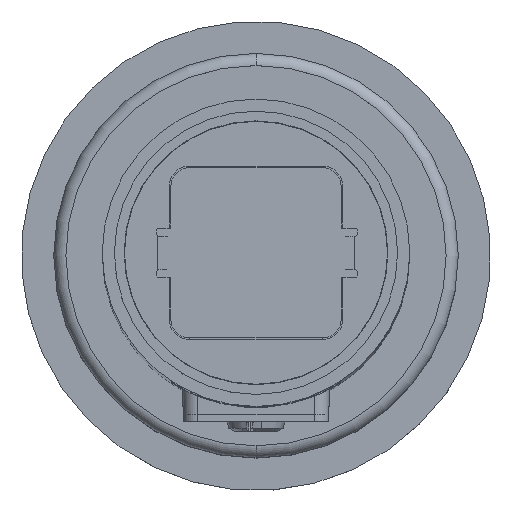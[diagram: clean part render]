
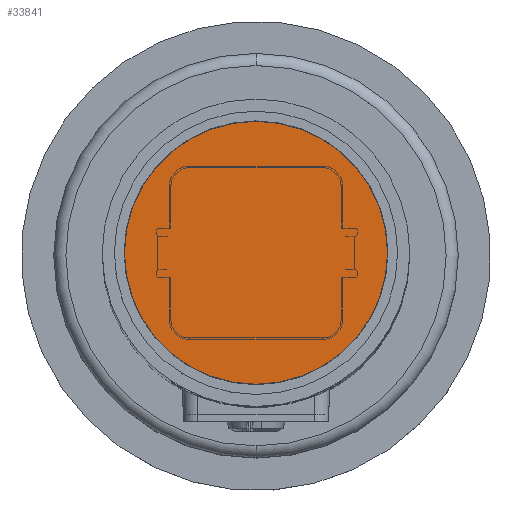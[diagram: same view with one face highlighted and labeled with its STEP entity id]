
A CAD part, top view. The second image highlights one B-rep face of the part: STEP entity #33841.
In plain terms, the highlighted planar face has unit normal (0, 0, 1) as drawn and (0, -1, 0) by its records, which use the part's own axes.
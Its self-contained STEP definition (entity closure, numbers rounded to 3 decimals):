
#45 = PLANE ( 'NONE',  #44454 ) ;
#46 = CARTESIAN_POINT ( 'NONE',  ( 0., 0., 0. ) ) ;
#47 = DIRECTION ( 'NONE',  ( 0., 1., 0. ) ) ;
#48 = DIRECTION ( 'NONE',  ( 0., 0., 1. ) ) ;
#2738 = EDGE_LOOP ( 'NONE', ( #33576, #33577 ) ) ;
#2906 = VERTEX_POINT ( 'NONE', #37681 ) ;
#2907 = VERTEX_POINT ( 'NONE', #37682 ) ;
#10644 = AXIS2_PLACEMENT_3D ( 'NONE', #23659, #23660, #23661 ) ;
#10719 = AXIS2_PLACEMENT_3D ( 'NONE', #23651, #23652, #23653 ) ;
#10724 = CIRCLE ( 'NONE', #10719, 16.25 ) ;
#10769 = CIRCLE ( 'NONE', #10644, 16.25 ) ;
#15799 = EDGE_CURVE ( 'NONE', #2906, #2907, #10724, .T. ) ;
#15802 = EDGE_CURVE ( 'NONE', #2907, #2906, #10769, .T. ) ;
#23651 = CARTESIAN_POINT ( 'NONE',  ( 0., 0., 0. ) ) ;
#23652 = DIRECTION ( 'NONE',  ( 0., 1., 0. ) ) ;
#23653 = DIRECTION ( 'NONE',  ( 0., 0., 1. ) ) ;
#23659 = CARTESIAN_POINT ( 'NONE',  ( 0., 0., 0. ) ) ;
#23660 = DIRECTION ( 'NONE',  ( 0., 1., 0. ) ) ;
#23661 = DIRECTION ( 'NONE',  ( 0., 0., 1. ) ) ;
#33576 = ORIENTED_EDGE ( 'NONE', *, *, #15802, .F. ) ;
#33577 = ORIENTED_EDGE ( 'NONE', *, *, #15799, .F. ) ;
#33841 = ADVANCED_FACE ( 'NONE', ( #41509 ), #45, .F. ) ;
#37681 = CARTESIAN_POINT ( 'NONE',  ( 0., 0., 16.25 ) ) ;
#37682 = CARTESIAN_POINT ( 'NONE',  ( 0., 0., -16.25 ) ) ;
#41509 = FACE_OUTER_BOUND ( 'NONE', #2738, .T. ) ;
#44454 = AXIS2_PLACEMENT_3D ( 'NONE', #46, #47, #48 ) ;
